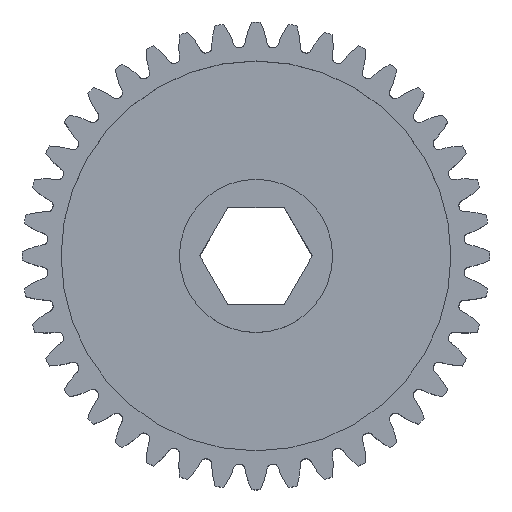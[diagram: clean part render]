
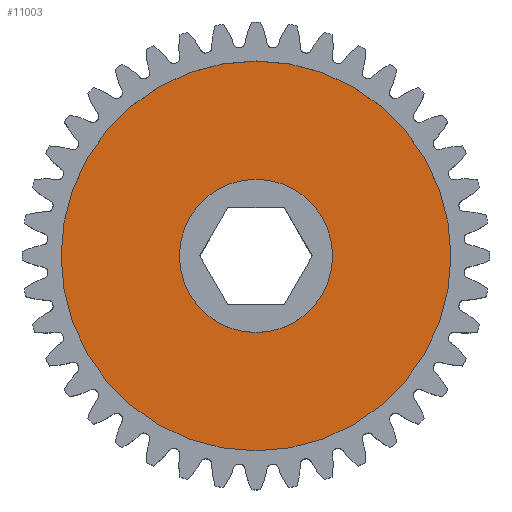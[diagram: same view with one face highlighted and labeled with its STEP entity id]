
A CAD part, top view. The second image highlights one B-rep face of the part: STEP entity #11003.
In plain terms, the highlighted planar face has unit normal (0, 0, 1).
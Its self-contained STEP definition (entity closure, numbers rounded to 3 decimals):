
#65 = CARTESIAN_POINT ( 'NONE',  ( -14., 0., 3. ) ) ;
#819 = FACE_BOUND ( 'NONE', #2236, .T. ) ;
#1065 = CARTESIAN_POINT ( 'NONE',  ( 0., 0., 3. ) ) ;
#1715 = ORIENTED_EDGE ( 'NONE', *, *, #4756, .F. ) ;
#2236 = EDGE_LOOP ( 'NONE', ( #1715, #3813 ) ) ;
#2322 = EDGE_CURVE ( 'NONE', #22898, #9673, #17638, .T. ) ;
#3613 = EDGE_CURVE ( 'NONE', #4055, #24304, #3638, .T. ) ;
#3638 = CIRCLE ( 'NONE', #23048, 5.5 ) ;
#3813 = ORIENTED_EDGE ( 'NONE', *, *, #3613, .F. ) ;
#4055 = VERTEX_POINT ( 'NONE', #9894 ) ;
#4167 = DIRECTION ( 'NONE',  ( 0., 0., 1. ) ) ;
#4756 = EDGE_CURVE ( 'NONE', #24304, #4055, #14260, .T. ) ;
#5288 = CARTESIAN_POINT ( 'NONE',  ( 0., 0., 3. ) ) ;
#5929 = CARTESIAN_POINT ( 'NONE',  ( 5.5, 0., 3. ) ) ;
#6119 = DIRECTION ( 'NONE',  ( 1., 0., 0. ) ) ;
#6332 = PLANE ( 'NONE',  #6361 ) ;
#6361 = AXIS2_PLACEMENT_3D ( 'NONE', #20168, #8191, #10383 ) ;
#6931 = DIRECTION ( 'NONE',  ( 0., 0., 1. ) ) ;
#7424 = DIRECTION ( 'NONE',  ( 1., 0., 0. ) ) ;
#8191 = DIRECTION ( 'NONE',  ( 0., 0., 1. ) ) ;
#9577 = AXIS2_PLACEMENT_3D ( 'NONE', #18189, #4167, #6119 ) ;
#9673 = VERTEX_POINT ( 'NONE', #19678 ) ;
#9894 = CARTESIAN_POINT ( 'NONE',  ( -5.5, 0., 3. ) ) ;
#10383 = DIRECTION ( 'NONE',  ( 1., 0., 0. ) ) ;
#10495 = DIRECTION ( 'NONE',  ( 1., 0., 0. ) ) ;
#11003 = ADVANCED_FACE ( 'NONE', ( #819, #17526 ), #6332, .T. ) ;
#14260 = CIRCLE ( 'NONE', #24661, 5.5 ) ;
#14633 = DIRECTION ( 'NONE',  ( 1., 0., 0. ) ) ;
#15153 = CIRCLE ( 'NONE', #16855, 14. ) ;
#16855 = AXIS2_PLACEMENT_3D ( 'NONE', #18475, #6931, #10495 ) ;
#17131 = ORIENTED_EDGE ( 'NONE', *, *, #2322, .T. ) ;
#17526 = FACE_OUTER_BOUND ( 'NONE', #24346, .T. ) ;
#17638 = CIRCLE ( 'NONE', #9577, 14. ) ;
#18095 = ORIENTED_EDGE ( 'NONE', *, *, #21492, .T. ) ;
#18189 = CARTESIAN_POINT ( 'NONE',  ( 0., 0., 3. ) ) ;
#18475 = CARTESIAN_POINT ( 'NONE',  ( 0., 0., 3. ) ) ;
#18863 = DIRECTION ( 'NONE',  ( 0., 0., 1. ) ) ;
#19678 = CARTESIAN_POINT ( 'NONE',  ( 14., 0., 3. ) ) ;
#20168 = CARTESIAN_POINT ( 'NONE',  ( 0., 0., 3. ) ) ;
#21492 = EDGE_CURVE ( 'NONE', #9673, #22898, #15153, .T. ) ;
#22898 = VERTEX_POINT ( 'NONE', #65 ) ;
#23048 = AXIS2_PLACEMENT_3D ( 'NONE', #1065, #24279, #14633 ) ;
#24279 = DIRECTION ( 'NONE',  ( 0., 0., 1. ) ) ;
#24304 = VERTEX_POINT ( 'NONE', #5929 ) ;
#24346 = EDGE_LOOP ( 'NONE', ( #18095, #17131 ) ) ;
#24661 = AXIS2_PLACEMENT_3D ( 'NONE', #5288, #18863, #7424 ) ;
